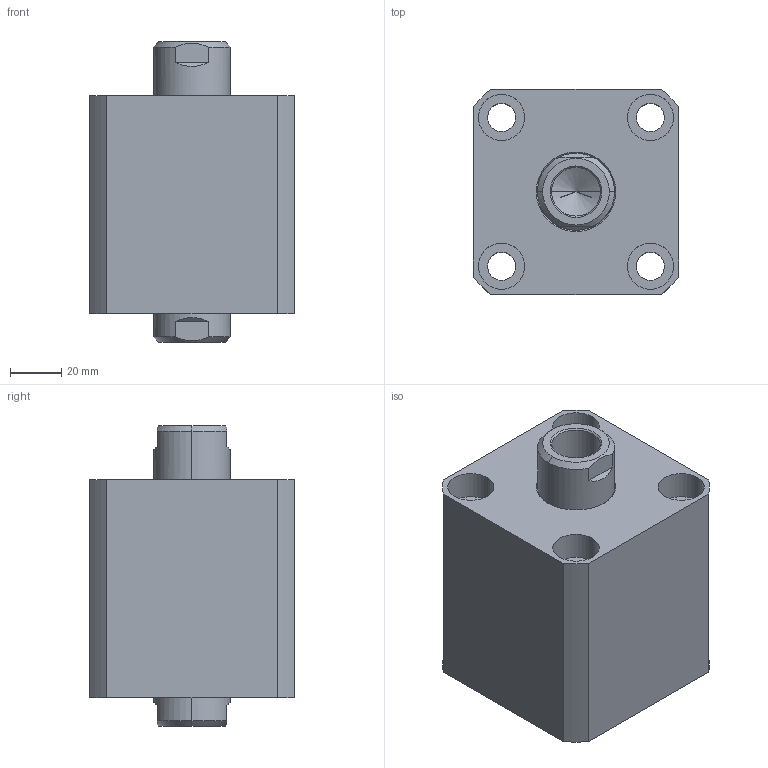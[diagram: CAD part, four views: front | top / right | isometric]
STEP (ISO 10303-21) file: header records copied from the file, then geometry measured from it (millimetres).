
FILE_DESCRIPTION (( 'STEP AP203' ), '1' );
FILE_NAME ('CHTB-SW50-10N.STEP', '2018-05-19T09:03:39', ( '' ), ( '' ), 'SwSTEP 2.0', 'SolidWorks 2015', '' );
FILE_SCHEMA (( 'CONFIG_CONTROL_DESIGN' ));
Length unit declared in the file: millimetre
Products named in the file (4): ヶ裔; CHTB-SW50-10N; 活塞杆SW50-10N; 掛极SW50-10N
Assembly tree (3 placements, depth 2):
  CHTB-SW50-10N
    掛极SW50-10N
    活塞杆SW50-10N
    ヶ裔
Bounding box: 80 x 80 x 117 mm (x, y, z)
Volume: 473619.4 mm3; surface area: 100048.2 mm2
Topology: 3 solids, 3 shells, 225 faces, 528 edges, 331 vertices
Faces by surface type: cylinder 118, plane 46, cone 33, torus 24, bspline 4
Entity records: 9698 total; most frequent: CARTESIAN_POINT 4235, DIRECTION 1104, ORIENTED_EDGE 1040, EDGE_CURVE 520, AXIS2_PLACEMENT_3D 462, VERTEX_POINT 331, EDGE_LOOP 271, CIRCLE 235
